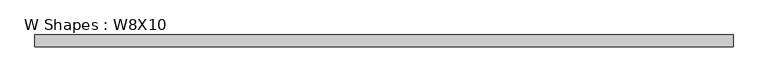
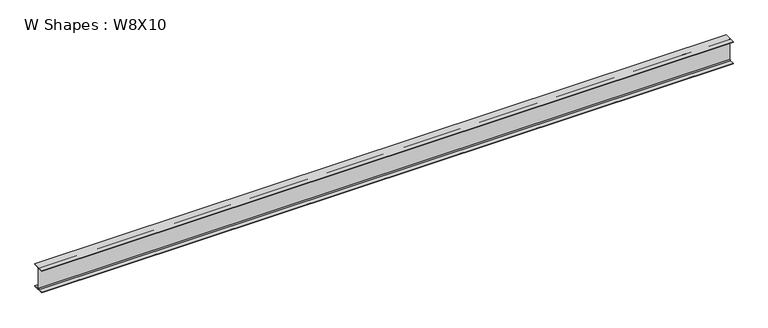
"""IFC4 building model written with IfcOpenShell, lengths in millimetres: beam geometry, W Shapes : W8X10."""

from ifc_helpers import new_model, si_unit, point, frame, frame_2d, origin, place, context, project, spatial, polyline, circle_curve, trimmed, segment, composite_curve, outline, extrude, source, transform, mapped, element, save


def w_shapes_w8x10_5ccd87fd(model_context):
    return source(origin(), model_context, "Body", "SweptSolid", [
        extrude(outline(composite_curve([segment(polyline([(50.038, -94.996), (50.038, -100.203), (-50.038, -100.203), (-50.038, -94.996), (-9.779, -94.996)]), True, "CONTINUOUS"), segment(trimmed(circle_curve(frame_2d((-9.779, -87.376)), 7.62), [point((-9.779, -94.996))], [point((-2.159, -87.376))], True, "CARTESIAN"), True, "CONTINUOUS"), segment(polyline([(-2.159, -87.376), (-2.159, 87.376)]), True, "CONTINUOUS"), segment(trimmed(circle_curve(frame_2d((-9.779, 87.376)), 7.62), [point((-2.159, 87.376))], [point((-9.779, 94.996))], True, "CARTESIAN"), True, "CONTINUOUS"), segment(polyline([(-9.779, 94.996), (-50.038, 94.996), (-50.038, 100.203), (50.038, 100.203), (50.038, 94.996), (9.779, 94.996)]), True, "CONTINUOUS"), segment(trimmed(circle_curve(frame_2d((9.779, 87.376)), 7.62), [point((9.779, 94.996))], [point((2.159, 87.376))], True, "CARTESIAN"), True, "CONTINUOUS"), segment(polyline([(2.159, 87.376), (2.159, -87.376)]), True, "CONTINUOUS"), segment(trimmed(circle_curve(frame_2d((9.779, -87.376)), 7.62), [point((2.159, -87.376))], [point((9.779, -94.996))], True, "CARTESIAN"), True, "CONTINUOUS"), segment(polyline([(9.779, -94.996), (50.038, -94.996)]), True, "CONTINUOUS")], self_intersect=False)), frame((-2950.845, 0.0, 0.0), z_axis=(1.0, 0.0, 0.0), x_axis=(0.0, 1.0, 0.0)), (0.0, 0.0, 1.0), 5901.69),
    ])


if __name__ == "__main__":
    model = new_model("IFC4")
    model_context = context("Model", 3, world=origin())
    ifc_project = project(units=[si_unit("LENGTHUNIT", "METRE", prefix="MILLI")], contexts=[model_context])
    site = spatial("IfcSite", under=ifc_project)
    building = spatial("IfcBuilding", under=site)
    placement = place(None, origin())
    w_shapes_w8x10_shape = w_shapes_w8x10_5ccd87fd(model_context)
    element("IfcBeam", 1, ObjectType="W Shapes : W8X10", at=placement, inside=building, context=model_context, shape_type="MappedRepresentation", body=[
        mapped(w_shapes_w8x10_shape, transform((0.0, 0.0, 0.0), x_axis=(1.0, 0.0, 0.0), y_axis=(0.0, 1.0, 0.0), z_axis=(0.0, 0.0, 1.0))),
    ])
    save(model, "model.ifc")
